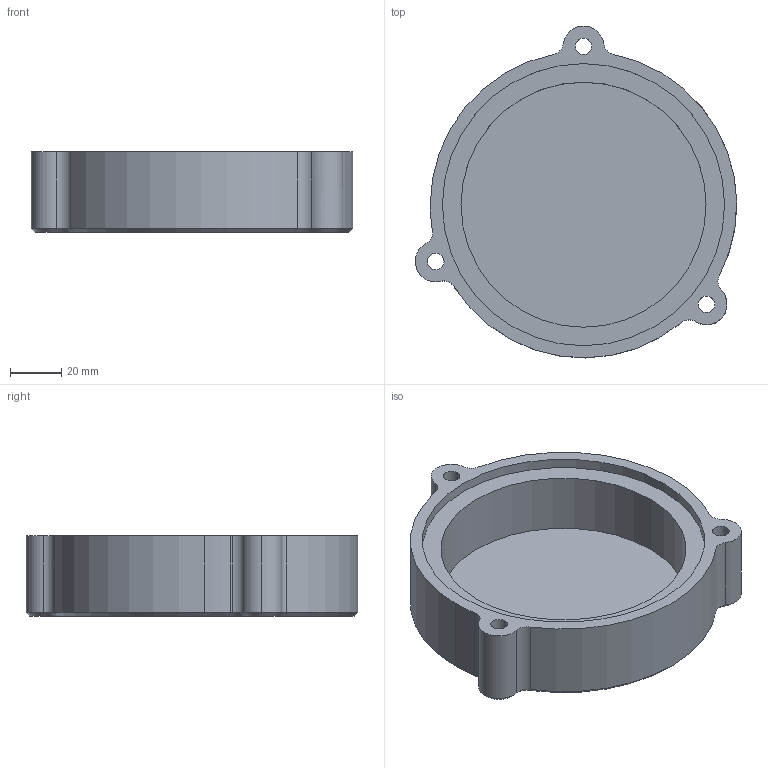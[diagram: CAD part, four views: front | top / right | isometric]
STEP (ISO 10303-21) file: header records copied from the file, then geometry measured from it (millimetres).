
FILE_DESCRIPTION (( 'STEP AP214' ), '1' );
FILE_NAME ('SC3_DC_RevC.STEP', '2017-04-10T17:44:39', ( '' ), ( '' ), 'SwSTEP 2.0', 'SolidWorks 2017', '' );
FILE_SCHEMA (( 'AUTOMOTIVE_DESIGN' ));
Length unit declared in the file: millimetre
Products named in the file (1): SC3_DC_RevC
Bounding box: 125.88 x 129.97 x 31.5 mm (x, y, z)
Volume: 152269 mm3; surface area: 46844.9 mm2
Topology: 1 solids, 1 shells, 53 faces, 126 edges, 80 vertices
Faces by surface type: cylinder 31, cone 15, plane 7
Entity records: 1610 total; most frequent: DIRECTION 314, CARTESIAN_POINT 260, ORIENTED_EDGE 252, AXIS2_PLACEMENT_3D 134, EDGE_CURVE 126, CIRCLE 80, VERTEX_POINT 80, EDGE_LOOP 64
